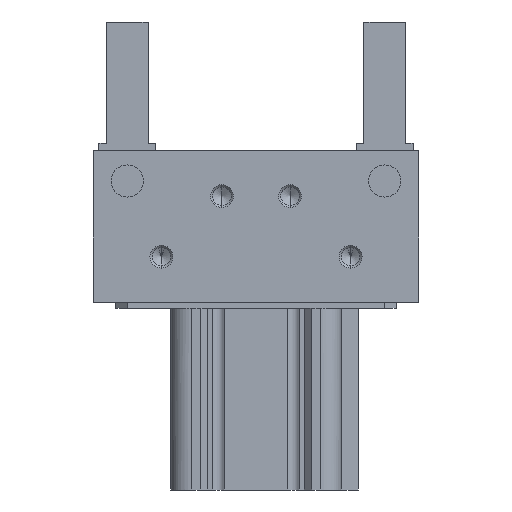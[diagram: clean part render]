
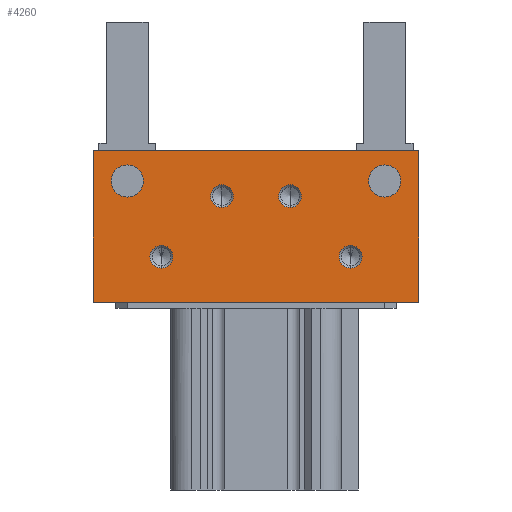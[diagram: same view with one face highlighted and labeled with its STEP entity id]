
A CAD part, front view. The second image highlights one B-rep face of the part: STEP entity #4260.
In plain terms, the highlighted planar face has unit normal (0, -1, 0).
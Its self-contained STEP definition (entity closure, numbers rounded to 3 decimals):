
#89 = ORIENTED_EDGE ( 'NONE', *, *, #2100, .T. ) ;
#235 = CARTESIAN_POINT ( 'NONE',  ( 25., -23., 64.6 ) ) ;
#294 = ORIENTED_EDGE ( 'NONE', *, *, #6593, .F. ) ;
#321 = FACE_OUTER_BOUND ( 'NONE', #6175, .T. ) ;
#349 = DIRECTION ( 'NONE',  ( 1., 0., 0. ) ) ;
#360 = DIRECTION ( 'NONE',  ( 1., 0., 0. ) ) ;
#540 = VERTEX_POINT ( 'NONE', #4424 ) ;
#594 = VERTEX_POINT ( 'NONE', #7441 ) ;
#669 = VERTEX_POINT ( 'NONE', #5226 ) ;
#783 = EDGE_CURVE ( 'NONE', #540, #669, #2618, .T. ) ;
#891 = DIRECTION ( 'NONE',  ( 1., 0., 0. ) ) ;
#999 = DIRECTION ( 'NONE',  ( 0., 1., 0. ) ) ;
#1082 = VERTEX_POINT ( 'NONE', #2731 ) ;
#1117 = EDGE_LOOP ( 'NONE', ( #7127, #3986 ) ) ;
#1123 = DIRECTION ( 'NONE',  ( -1., 0., 0. ) ) ;
#1152 = CARTESIAN_POINT ( 'NONE',  ( -9., -23., 77.6 ) ) ;
#1165 = EDGE_CURVE ( 'NONE', #4313, #1082, #2009, .T. ) ;
#1235 = VERTEX_POINT ( 'NONE', #6985 ) ;
#1248 = AXIS2_PLACEMENT_3D ( 'NONE', #4606, #999, #7058 ) ;
#1281 = CARTESIAN_POINT ( 'NONE',  ( -9., -23., 80.6 ) ) ;
#1351 = DIRECTION ( 'NONE',  ( 1., 0., 0. ) ) ;
#1518 = DIRECTION ( 'NONE',  ( 0., 0., 1. ) ) ;
#1520 = CARTESIAN_POINT ( 'NONE',  ( 9., -23., 77.6 ) ) ;
#1590 = FACE_BOUND ( 'NONE', #1117, .T. ) ;
#1649 = EDGE_CURVE ( 'NONE', #6538, #4299, #3890, .T. ) ;
#1725 = EDGE_LOOP ( 'NONE', ( #5030, #6651 ) ) ;
#1752 = CARTESIAN_POINT ( 'NONE',  ( 43., -23., 89.6 ) ) ;
#1857 = VERTEX_POINT ( 'NONE', #3606 ) ;
#2002 = DIRECTION ( 'NONE',  ( 0., 1., 0. ) ) ;
#2009 = CIRCLE ( 'NONE', #6768, 4.25 ) ;
#2049 = ORIENTED_EDGE ( 'NONE', *, *, #783, .F. ) ;
#2084 = CARTESIAN_POINT ( 'NONE',  ( -43., -23., 49.6 ) ) ;
#2100 = EDGE_CURVE ( 'NONE', #4562, #4900, #3836, .T. ) ;
#2273 = CARTESIAN_POINT ( 'NONE',  ( 43., -23., 49.6 ) ) ;
#2343 = ORIENTED_EDGE ( 'NONE', *, *, #7300, .T. ) ;
#2449 = VECTOR ( 'NONE', #7033, 1000. ) ;
#2480 = CARTESIAN_POINT ( 'NONE',  ( -25., -23., 61.6 ) ) ;
#2540 = EDGE_LOOP ( 'NONE', ( #5455, #7451 ) ) ;
#2618 = LINE ( 'NONE', #3381, #4911 ) ;
#2635 = ORIENTED_EDGE ( 'NONE', *, *, #7432, .F. ) ;
#2723 = CARTESIAN_POINT ( 'NONE',  ( -34., -23., 77.35 ) ) ;
#2731 = CARTESIAN_POINT ( 'NONE',  ( 34., -23., 77.35 ) ) ;
#2734 = AXIS2_PLACEMENT_3D ( 'NONE', #4564, #6451, #1518 ) ;
#2828 = LINE ( 'NONE', #1752, #6829 ) ;
#2845 = VECTOR ( 'NONE', #1123, 1000. ) ;
#2978 = CIRCLE ( 'NONE', #5028, 3. ) ;
#2984 = CIRCLE ( 'NONE', #5420, 4.25 ) ;
#2993 = ORIENTED_EDGE ( 'NONE', *, *, #4602, .T. ) ;
#3091 = AXIS2_PLACEMENT_3D ( 'NONE', #1152, #7284, #4243 ) ;
#3234 = CARTESIAN_POINT ( 'NONE',  ( 9., -23., 80.6 ) ) ;
#3343 = CIRCLE ( 'NONE', #4247, 3. ) ;
#3381 = CARTESIAN_POINT ( 'NONE',  ( -43., -23., 89.6 ) ) ;
#3496 = VERTEX_POINT ( 'NONE', #2084 ) ;
#3549 = EDGE_LOOP ( 'NONE', ( #2343, #89 ) ) ;
#3589 = VERTEX_POINT ( 'NONE', #4264 ) ;
#3606 = CARTESIAN_POINT ( 'NONE',  ( -25., -23., 64.6 ) ) ;
#3690 = CARTESIAN_POINT ( 'NONE',  ( -34., -23., 81.6 ) ) ;
#3768 = DIRECTION ( 'NONE',  ( 0., 1., 0. ) ) ;
#3836 = CIRCLE ( 'NONE', #4868, 3. ) ;
#3846 = EDGE_CURVE ( 'NONE', #4299, #6538, #5087, .T. ) ;
#3855 = DIRECTION ( 'NONE',  ( 1., 0., 0. ) ) ;
#3890 = CIRCLE ( 'NONE', #2734, 3. ) ;
#3925 = FACE_BOUND ( 'NONE', #4188, .T. ) ;
#3950 = LINE ( 'NONE', #6388, #2449 ) ;
#3960 = CARTESIAN_POINT ( 'NONE',  ( 34., -23., 85.85 ) ) ;
#3986 = ORIENTED_EDGE ( 'NONE', *, *, #4108, .T. ) ;
#4012 = EDGE_CURVE ( 'NONE', #7598, #594, #6665, .T. ) ;
#4099 = AXIS2_PLACEMENT_3D ( 'NONE', #7045, #5206, #360 ) ;
#4108 = EDGE_CURVE ( 'NONE', #1857, #3589, #6913, .T. ) ;
#4152 = DIRECTION ( 'NONE',  ( 0., 0., 1. ) ) ;
#4188 = EDGE_LOOP ( 'NONE', ( #2993, #7250 ) ) ;
#4243 = DIRECTION ( 'NONE',  ( 0., 0., 1. ) ) ;
#4247 = AXIS2_PLACEMENT_3D ( 'NONE', #6380, #6339, #5221 ) ;
#4260 = ADVANCED_FACE ( 'NONE', ( #321, #3925, #6360, #1590, #7652, #4596, #6322 ), #5673, .F. ) ;
#4264 = CARTESIAN_POINT ( 'NONE',  ( -25., -23., 58.6 ) ) ;
#4299 = VERTEX_POINT ( 'NONE', #235 ) ;
#4313 = VERTEX_POINT ( 'NONE', #3960 ) ;
#4367 = DIRECTION ( 'NONE',  ( 0., 0., 1. ) ) ;
#4415 = CARTESIAN_POINT ( 'NONE',  ( 34., -23., 81.6 ) ) ;
#4424 = CARTESIAN_POINT ( 'NONE',  ( -43., -23., 89.6 ) ) ;
#4448 = DIRECTION ( 'NONE',  ( 0., 1., 0. ) ) ;
#4478 = ORIENTED_EDGE ( 'NONE', *, *, #5067, .F. ) ;
#4562 = VERTEX_POINT ( 'NONE', #3234 ) ;
#4564 = CARTESIAN_POINT ( 'NONE',  ( 25., -23., 61.6 ) ) ;
#4596 = FACE_BOUND ( 'NONE', #2540, .T. ) ;
#4602 = EDGE_CURVE ( 'NONE', #1082, #4313, #7177, .T. ) ;
#4606 = CARTESIAN_POINT ( 'NONE',  ( 25., -23., 61.6 ) ) ;
#4735 = AXIS2_PLACEMENT_3D ( 'NONE', #7815, #7130, #5289 ) ;
#4764 = DIRECTION ( 'NONE',  ( 0., 0., -1. ) ) ;
#4868 = AXIS2_PLACEMENT_3D ( 'NONE', #7148, #7753, #4152 ) ;
#4900 = VERTEX_POINT ( 'NONE', #7158 ) ;
#4911 = VECTOR ( 'NONE', #349, 1000. ) ;
#4925 = EDGE_CURVE ( 'NONE', #594, #7598, #5387, .T. ) ;
#4955 = VERTEX_POINT ( 'NONE', #7403 ) ;
#5028 = AXIS2_PLACEMENT_3D ( 'NONE', #1520, #5172, #6371 ) ;
#5030 = ORIENTED_EDGE ( 'NONE', *, *, #5968, .T. ) ;
#5067 = EDGE_CURVE ( 'NONE', #3496, #540, #3950, .T. ) ;
#5087 = CIRCLE ( 'NONE', #1248, 3. ) ;
#5173 = CARTESIAN_POINT ( 'NONE',  ( -34., -23., 81.6 ) ) ;
#5172 = DIRECTION ( 'NONE',  ( 0., 1., 0. ) ) ;
#5206 = DIRECTION ( 'NONE',  ( 0., 1., 0. ) ) ;
#5221 = DIRECTION ( 'NONE',  ( 0., 0., 1. ) ) ;
#5226 = CARTESIAN_POINT ( 'NONE',  ( 43., -23., 89.6 ) ) ;
#5289 = DIRECTION ( 'NONE',  ( 0., 0., 1. ) ) ;
#5387 = CIRCLE ( 'NONE', #3091, 3. ) ;
#5420 = AXIS2_PLACEMENT_3D ( 'NONE', #3690, #6852, #1351 ) ;
#5455 = ORIENTED_EDGE ( 'NONE', *, *, #4925, .T. ) ;
#5478 = ORIENTED_EDGE ( 'NONE', *, *, #1649, .T. ) ;
#5502 = EDGE_CURVE ( 'NONE', #3589, #1857, #3343, .T. ) ;
#5673 = PLANE ( 'NONE',  #4099 ) ;
#5747 = CARTESIAN_POINT ( 'NONE',  ( 25., -23., 58.6 ) ) ;
#5968 = EDGE_CURVE ( 'NONE', #7373, #4955, #7824, .T. ) ;
#6012 = AXIS2_PLACEMENT_3D ( 'NONE', #2480, #3768, #4367 ) ;
#6127 = CARTESIAN_POINT ( 'NONE',  ( 34., -23., 81.6 ) ) ;
#6171 = DIRECTION ( 'NONE',  ( 0., 1., 0. ) ) ;
#6175 = EDGE_LOOP ( 'NONE', ( #4478, #2635, #294, #2049 ) ) ;
#6277 = AXIS2_PLACEMENT_3D ( 'NONE', #5173, #4448, #3855 ) ;
#6322 = FACE_BOUND ( 'NONE', #3549, .T. ) ;
#6339 = DIRECTION ( 'NONE',  ( 0., 1., 0. ) ) ;
#6360 = FACE_BOUND ( 'NONE', #1725, .T. ) ;
#6362 = EDGE_CURVE ( 'NONE', #4955, #7373, #2984, .T. ) ;
#6371 = DIRECTION ( 'NONE',  ( 0., 0., 1. ) ) ;
#6380 = CARTESIAN_POINT ( 'NONE',  ( -25., -23., 61.6 ) ) ;
#6388 = CARTESIAN_POINT ( 'NONE',  ( -43., -23., 49.6 ) ) ;
#6451 = DIRECTION ( 'NONE',  ( 0., 1., 0. ) ) ;
#6538 = VERTEX_POINT ( 'NONE', #5747 ) ;
#6577 = LINE ( 'NONE', #2273, #2845 ) ;
#6593 = EDGE_CURVE ( 'NONE', #669, #1235, #2828, .T. ) ;
#6651 = ORIENTED_EDGE ( 'NONE', *, *, #6362, .T. ) ;
#6665 = CIRCLE ( 'NONE', #4735, 3. ) ;
#6768 = AXIS2_PLACEMENT_3D ( 'NONE', #4415, #2002, #891 ) ;
#6829 = VECTOR ( 'NONE', #4764, 1000. ) ;
#6852 = DIRECTION ( 'NONE',  ( 0., 1., 0. ) ) ;
#6874 = EDGE_LOOP ( 'NONE', ( #5478, #7361 ) ) ;
#6913 = CIRCLE ( 'NONE', #6012, 3. ) ;
#6985 = CARTESIAN_POINT ( 'NONE',  ( 43., -23., 49.6 ) ) ;
#7033 = DIRECTION ( 'NONE',  ( 0., 0., 1. ) ) ;
#7045 = CARTESIAN_POINT ( 'NONE',  ( 0., -23., 0. ) ) ;
#7058 = DIRECTION ( 'NONE',  ( 0., 0., 1. ) ) ;
#7127 = ORIENTED_EDGE ( 'NONE', *, *, #5502, .T. ) ;
#7130 = DIRECTION ( 'NONE',  ( 0., 1., 0. ) ) ;
#7148 = CARTESIAN_POINT ( 'NONE',  ( 9., -23., 77.6 ) ) ;
#7158 = CARTESIAN_POINT ( 'NONE',  ( 9., -23., 74.6 ) ) ;
#7177 = CIRCLE ( 'NONE', #7816, 4.25 ) ;
#7250 = ORIENTED_EDGE ( 'NONE', *, *, #1165, .T. ) ;
#7284 = DIRECTION ( 'NONE',  ( 0., 1., 0. ) ) ;
#7300 = EDGE_CURVE ( 'NONE', #4900, #4562, #2978, .T. ) ;
#7361 = ORIENTED_EDGE ( 'NONE', *, *, #3846, .T. ) ;
#7373 = VERTEX_POINT ( 'NONE', #2723 ) ;
#7403 = CARTESIAN_POINT ( 'NONE',  ( -34., -23., 85.85 ) ) ;
#7409 = DIRECTION ( 'NONE',  ( 1., 0., 0. ) ) ;
#7432 = EDGE_CURVE ( 'NONE', #1235, #3496, #6577, .T. ) ;
#7441 = CARTESIAN_POINT ( 'NONE',  ( -9., -23., 74.6 ) ) ;
#7451 = ORIENTED_EDGE ( 'NONE', *, *, #4012, .T. ) ;
#7598 = VERTEX_POINT ( 'NONE', #1281 ) ;
#7652 = FACE_BOUND ( 'NONE', #6874, .T. ) ;
#7753 = DIRECTION ( 'NONE',  ( 0., 1., 0. ) ) ;
#7815 = CARTESIAN_POINT ( 'NONE',  ( -9., -23., 77.6 ) ) ;
#7816 = AXIS2_PLACEMENT_3D ( 'NONE', #6127, #6171, #7409 ) ;
#7824 = CIRCLE ( 'NONE', #6277, 4.25 ) ;
